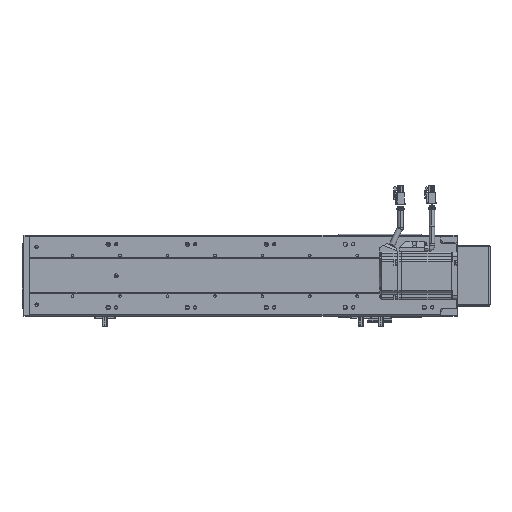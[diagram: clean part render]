
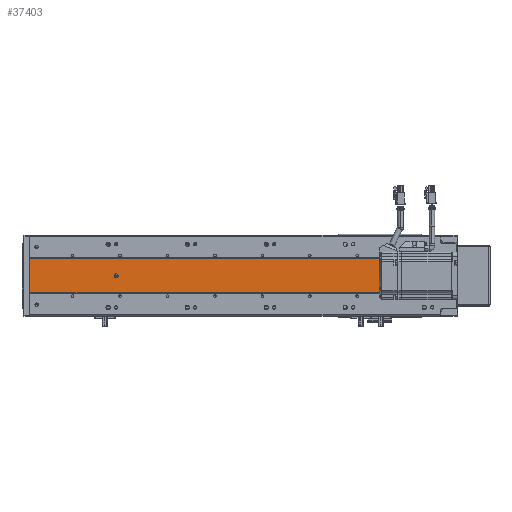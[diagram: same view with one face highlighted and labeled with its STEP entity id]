
A CAD part, front view. The second image highlights one B-rep face of the part: STEP entity #37403.
In plain terms, the highlighted planar face has unit normal (0, -1, 0).
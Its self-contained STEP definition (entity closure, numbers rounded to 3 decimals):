
#775 = EDGE_CURVE ( 'NONE', #60301, #60391, #88860, .T. ) ;
#859 = EDGE_CURVE ( 'NONE', #60331, #60267, #88840, .T. ) ;
#3688 = LINE ( 'NONE', #86096, #3731 ) ;
#3691 = VECTOR ( 'NONE', #27928, 1000. ) ;
#3699 = LINE ( 'NONE', #27935, #3691 ) ;
#3701 = VECTOR ( 'NONE', #27993, 1000. ) ;
#3719 = LINE ( 'NONE', #27980, #3701 ) ;
#3731 = VECTOR ( 'NONE', #86079, 1000. ) ;
#3770 = VECTOR ( 'NONE', #28072, 1000. ) ;
#3778 = VECTOR ( 'NONE', #28093, 1000. ) ;
#3781 = LINE ( 'NONE', #28087, #3770 ) ;
#3786 = LINE ( 'NONE', #28092, #3778 ) ;
#16472 = EDGE_CURVE ( 'NONE', #59847, #60031, #50798, .T. ) ;
#16670 = EDGE_CURVE ( 'NONE', #59835, #59831, #51150, .T. ) ;
#19739 = AXIS2_PLACEMENT_3D ( 'NONE', #29484, #29485, #29492 ) ;
#19787 = AXIS2_PLACEMENT_3D ( 'NONE', #29746, #29739, #29741 ) ;
#20047 = AXIS2_PLACEMENT_3D ( 'NONE', #43074, #43100, #43120 ) ;
#20093 = AXIS2_PLACEMENT_3D ( 'NONE', #43652, #43711, #43664 ) ;
#25180 = CARTESIAN_POINT ( 'NONE',  ( 142.903, 89.548, 109. ) ) ;
#25182 = CARTESIAN_POINT ( 'NONE',  ( 137.903, 89.548, 509. ) ) ;
#25255 = CARTESIAN_POINT ( 'NONE',  ( 137.903, 89.548, 109. ) ) ;
#25280 = CARTESIAN_POINT ( 'NONE',  ( 118.817, 89.548, 539. ) ) ;
#25285 = CARTESIAN_POINT ( 'NONE',  ( 118.817, 89.548, 526.302 ) ) ;
#25300 = CARTESIAN_POINT ( 'NONE',  ( 118.817, 89.548, 0. ) ) ;
#25318 = CARTESIAN_POINT ( 'NONE',  ( 118.817, 89.548, 529.698 ) ) ;
#25341 = CARTESIAN_POINT ( 'NONE',  ( 118.817, 89.548, 519.698 ) ) ;
#25363 = CARTESIAN_POINT ( 'NONE',  ( 161.989, 89.548, 539. ) ) ;
#25380 = CARTESIAN_POINT ( 'NONE',  ( 161.989, 89.548, 0. ) ) ;
#27928 = DIRECTION ( 'NONE',  ( 0., 0., -1. ) ) ;
#27935 = CARTESIAN_POINT ( 'NONE',  ( 161.989, 89.548, 539. ) ) ;
#27980 = CARTESIAN_POINT ( 'NONE',  ( 161.989, 89.548, 539. ) ) ;
#27993 = DIRECTION ( 'NONE',  ( 0., 0., -1. ) ) ;
#28072 = DIRECTION ( 'NONE',  ( 0., 0., -1. ) ) ;
#28087 = CARTESIAN_POINT ( 'NONE',  ( 118.817, 89.548, 539. ) ) ;
#28092 = CARTESIAN_POINT ( 'NONE',  ( 161.989, 89.548, 539. ) ) ;
#28093 = DIRECTION ( 'NONE',  ( 1., 0., 0. ) ) ;
#29484 = CARTESIAN_POINT ( 'NONE',  ( 140.403, 89.548, 109. ) ) ;
#29485 = DIRECTION ( 'NONE',  ( 0., -1., 0. ) ) ;
#29492 = DIRECTION ( 'NONE',  ( 1., 0., 0. ) ) ;
#29739 = DIRECTION ( 'NONE',  ( 0., -1., 0. ) ) ;
#29741 = DIRECTION ( 'NONE',  ( 1., 0., 0. ) ) ;
#29746 = CARTESIAN_POINT ( 'NONE',  ( 140.403, 89.548, 509. ) ) ;
#37403 = ADVANCED_FACE ( 'NONE', ( #73565, #73569, #73543 ), #69921, .F. ) ;
#43074 = CARTESIAN_POINT ( 'NONE',  ( 165.403, 89.548, 533. ) ) ;
#43100 = DIRECTION ( 'NONE',  ( 0., 1., 0. ) ) ;
#43120 = DIRECTION ( 'NONE',  ( -1., 0., 0. ) ) ;
#43652 = CARTESIAN_POINT ( 'NONE',  ( 165.403, 89.548, 523. ) ) ;
#43664 = DIRECTION ( 'NONE',  ( -1., 0., 0. ) ) ;
#43711 = DIRECTION ( 'NONE',  ( 0., 1., 0. ) ) ;
#46263 = ORIENTED_EDGE ( 'NONE', *, *, #775, .F. ) ;
#46290 = ORIENTED_EDGE ( 'NONE', *, *, #16472, .T. ) ;
#46340 = ORIENTED_EDGE ( 'NONE', *, *, #68063, .T. ) ;
#46356 = ORIENTED_EDGE ( 'NONE', *, *, #66793, .F. ) ;
#46372 = ORIENTED_EDGE ( 'NONE', *, *, #66842, .F. ) ;
#46379 = ORIENTED_EDGE ( 'NONE', *, *, #16670, .T. ) ;
#46384 = ORIENTED_EDGE ( 'NONE', *, *, #66810, .F. ) ;
#46397 = ORIENTED_EDGE ( 'NONE', *, *, #65090, .F. ) ;
#46409 = ORIENTED_EDGE ( 'NONE', *, *, #66785, .T. ) ;
#46413 = ORIENTED_EDGE ( 'NONE', *, *, #68168, .T. ) ;
#46425 = ORIENTED_EDGE ( 'NONE', *, *, #68178, .F. ) ;
#46443 = ORIENTED_EDGE ( 'NONE', *, *, #65138, .F. ) ;
#46459 = ORIENTED_EDGE ( 'NONE', *, *, #859, .F. ) ;
#46468 = ORIENTED_EDGE ( 'NONE', *, *, #68228, .T. ) ;
#46519 = ORIENTED_EDGE ( 'NONE', *, *, #65080, .T. ) ;
#46603 = ORIENTED_EDGE ( 'NONE', *, *, #66834, .T. ) ;
#47084 = DIRECTION ( 'NONE',  ( 0., 0., -1. ) ) ;
#47119 = CARTESIAN_POINT ( 'NONE',  ( 118.817, 89.548, 539. ) ) ;
#47200 = CARTESIAN_POINT ( 'NONE',  ( 118.817, 89.548, 536.302 ) ) ;
#47349 = DIRECTION ( 'NONE',  ( 1., 0., 0. ) ) ;
#47353 = DIRECTION ( 'NONE',  ( 0., -1., 0. ) ) ;
#47365 = CARTESIAN_POINT ( 'NONE',  ( 115.403, 89.548, 523. ) ) ;
#47368 = CARTESIAN_POINT ( 'NONE',  ( 140.403, 89.548, 109. ) ) ;
#47393 = DIRECTION ( 'NONE',  ( 0., 1., 0. ) ) ;
#47416 = DIRECTION ( 'NONE',  ( -1., 0., 0. ) ) ;
#47505 = CARTESIAN_POINT ( 'NONE',  ( 115.403, 89.548, 533. ) ) ;
#47507 = DIRECTION ( 'NONE',  ( -1., 0., 0. ) ) ;
#47536 = DIRECTION ( 'NONE',  ( 0., 1., 0. ) ) ;
#50798 = CIRCLE ( 'NONE', #20047, 4.75 ) ;
#51150 = CIRCLE ( 'NONE', #20093, 4.75 ) ;
#58103 = VERTEX_POINT ( 'NONE', #47200 ) ;
#59831 = VERTEX_POINT ( 'NONE', #96685 ) ;
#59835 = VERTEX_POINT ( 'NONE', #96713 ) ;
#59847 = VERTEX_POINT ( 'NONE', #96724 ) ;
#60031 = VERTEX_POINT ( 'NONE', #96750 ) ;
#60267 = VERTEX_POINT ( 'NONE', #97094 ) ;
#60301 = VERTEX_POINT ( 'NONE', #25255 ) ;
#60331 = VERTEX_POINT ( 'NONE', #25182 ) ;
#60391 = VERTEX_POINT ( 'NONE', #25180 ) ;
#60447 = VERTEX_POINT ( 'NONE', #25363 ) ;
#60465 = VERTEX_POINT ( 'NONE', #25280 ) ;
#60467 = VERTEX_POINT ( 'NONE', #25285 ) ;
#60471 = VERTEX_POINT ( 'NONE', #25341 ) ;
#60499 = VERTEX_POINT ( 'NONE', #25318 ) ;
#60511 = VERTEX_POINT ( 'NONE', #25300 ) ;
#60543 = VERTEX_POINT ( 'NONE', #25380 ) ;
#65080 = EDGE_CURVE ( 'NONE', #60511, #60543, #95369, .T. ) ;
#65090 = EDGE_CURVE ( 'NONE', #60447, #60031, #95363, .T. ) ;
#65138 = EDGE_CURVE ( 'NONE', #60267, #60331, #95404, .T. ) ;
#66785 = EDGE_CURVE ( 'NONE', #60471, #60511, #3688, .T. ) ;
#66793 = EDGE_CURVE ( 'NONE', #59847, #59831, #3699, .T. ) ;
#66810 = EDGE_CURVE ( 'NONE', #59835, #60543, #3719, .T. ) ;
#66834 = EDGE_CURVE ( 'NONE', #60499, #60467, #3781, .T. ) ;
#66842 = EDGE_CURVE ( 'NONE', #60465, #60447, #3786, .T. ) ;
#68063 = EDGE_CURVE ( 'NONE', #60465, #58103, #76012, .T. ) ;
#68168 = EDGE_CURVE ( 'NONE', #60467, #60471, #76124, .T. ) ;
#68178 = EDGE_CURVE ( 'NONE', #60391, #60301, #76116, .T. ) ;
#68228 = EDGE_CURVE ( 'NONE', #58103, #60499, #76198, .T. ) ;
#69914 = DIRECTION ( 'NONE',  ( -1., 0., 0. ) ) ;
#69915 = DIRECTION ( 'NONE',  ( 0., 1., 0. ) ) ;
#69921 = PLANE ( 'NONE',  #86923 ) ;
#69929 = CARTESIAN_POINT ( 'NONE',  ( 161.989, 89.548, 539. ) ) ;
#73543 = FACE_OUTER_BOUND ( 'NONE', #97794, .T. ) ;
#73565 = FACE_BOUND ( 'NONE', #97706, .T. ) ;
#73569 = FACE_BOUND ( 'NONE', #97702, .T. ) ;
#74620 = DIRECTION ( 'NONE',  ( 1., 0., 0. ) ) ;
#74630 = CARTESIAN_POINT ( 'NONE',  ( 161.989, 89.548, 0. ) ) ;
#74638 = CARTESIAN_POINT ( 'NONE',  ( 161.989, 89.548, 539. ) ) ;
#74639 = DIRECTION ( 'NONE',  ( 0., 0., -1. ) ) ;
#74741 = DIRECTION ( 'NONE',  ( 0., -1., 0. ) ) ;
#74750 = CARTESIAN_POINT ( 'NONE',  ( 140.403, 89.548, 509. ) ) ;
#74751 = DIRECTION ( 'NONE',  ( 1., 0., 0. ) ) ;
#76012 = LINE ( 'NONE', #47119, #76023 ) ;
#76023 = VECTOR ( 'NONE', #47084, 1000. ) ;
#76116 = CIRCLE ( 'NONE', #79979, 2.5 ) ;
#76124 = CIRCLE ( 'NONE', #79920, 4.75 ) ;
#76198 = CIRCLE ( 'NONE', #79887, 4.75 ) ;
#79217 = AXIS2_PLACEMENT_3D ( 'NONE', #74750, #74741, #74751 ) ;
#79887 = AXIS2_PLACEMENT_3D ( 'NONE', #47505, #47536, #47507 ) ;
#79920 = AXIS2_PLACEMENT_3D ( 'NONE', #47365, #47393, #47416 ) ;
#79979 = AXIS2_PLACEMENT_3D ( 'NONE', #47368, #47353, #47349 ) ;
#86079 = DIRECTION ( 'NONE',  ( 0., 0., -1. ) ) ;
#86096 = CARTESIAN_POINT ( 'NONE',  ( 118.817, 89.548, 539. ) ) ;
#86923 = AXIS2_PLACEMENT_3D ( 'NONE', #69929, #69915, #69914 ) ;
#88840 = CIRCLE ( 'NONE', #19787, 2.5 ) ;
#88860 = CIRCLE ( 'NONE', #19739, 2.5 ) ;
#95356 = VECTOR ( 'NONE', #74639, 1000. ) ;
#95359 = VECTOR ( 'NONE', #74620, 1000. ) ;
#95363 = LINE ( 'NONE', #74638, #95356 ) ;
#95369 = LINE ( 'NONE', #74630, #95359 ) ;
#95404 = CIRCLE ( 'NONE', #79217, 2.5 ) ;
#96685 = CARTESIAN_POINT ( 'NONE',  ( 161.989, 89.548, 526.302 ) ) ;
#96713 = CARTESIAN_POINT ( 'NONE',  ( 161.989, 89.548, 519.698 ) ) ;
#96724 = CARTESIAN_POINT ( 'NONE',  ( 161.989, 89.548, 529.698 ) ) ;
#96750 = CARTESIAN_POINT ( 'NONE',  ( 161.989, 89.548, 536.302 ) ) ;
#97094 = CARTESIAN_POINT ( 'NONE',  ( 142.903, 89.548, 509. ) ) ;
#97702 = EDGE_LOOP ( 'NONE', ( #46425, #46263 ) ) ;
#97706 = EDGE_LOOP ( 'NONE', ( #46443, #46459 ) ) ;
#97794 = EDGE_LOOP ( 'NONE', ( #46356, #46290, #46397, #46372, #46340, #46468, #46603, #46413, #46409, #46519, #46384, #46379 ) ) ;
